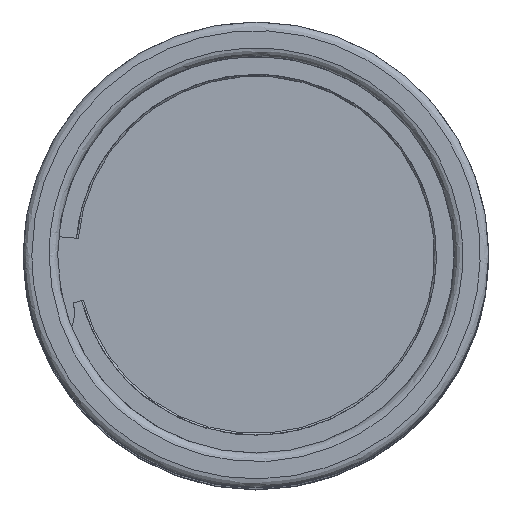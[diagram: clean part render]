
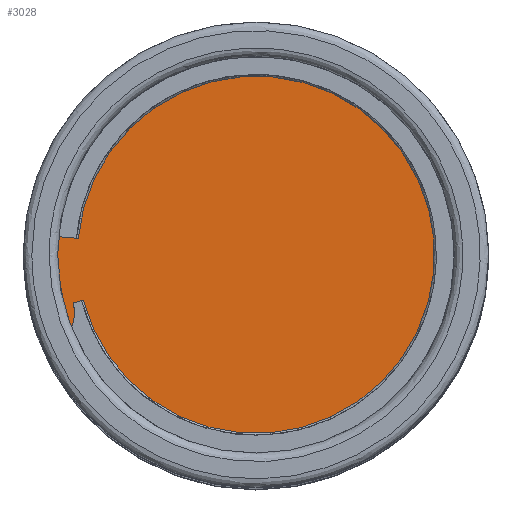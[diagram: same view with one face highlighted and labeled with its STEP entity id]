
A CAD part, top view. The second image highlights one B-rep face of the part: STEP entity #3028.
In plain terms, the highlighted planar face has unit normal (0, 0, 1).
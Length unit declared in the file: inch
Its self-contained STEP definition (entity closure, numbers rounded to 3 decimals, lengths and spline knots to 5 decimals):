
#37 = EDGE_CURVE ( 'NONE', #3490, #3490, #2643, .T. ) ;
#41 = CARTESIAN_POINT ( 'NONE',  ( -0.62511, 0.05754, 2.387 ) ) ;
#69 = CARTESIAN_POINT ( 'NONE',  ( -0.60709, -0.15973, 2.387 ) ) ;
#243 = ORIENTED_EDGE ( 'NONE', *, *, #1819, .F. ) ;
#270 = CARTESIAN_POINT ( 'NONE',  ( 0., 0., 2.387 ) ) ;
#381 = CARTESIAN_POINT ( 'NONE',  ( 0.86458, -1.0048, 2.387 ) ) ;
#508 = CARTESIAN_POINT ( 'NONE',  ( -0.33609, -1.18974, 2.387 ) ) ;
#511 = ORIENTED_EDGE ( 'NONE', *, *, #37, .F. ) ;
#512 = PLANE ( 'NONE',  #2133 ) ;
#704 = ORIENTED_EDGE ( 'NONE', *, *, #3584, .T. ) ;
#826 = EDGE_LOOP ( 'NONE', ( #2262, #704, #243, #1555, #2501 ) ) ;
#975 = CIRCLE ( 'NONE', #2659, 0.13933 ) ;
#1021 = VECTOR ( 'NONE', #3404, 39.37008 ) ;
#1031 = EDGE_CURVE ( 'NONE', #1892, #3234, #2520, .T. ) ;
#1073 = DIRECTION ( 'NONE',  ( 1., 0., 0. ) ) ;
#1113 = EDGE_CURVE ( 'NONE', #2357, #1892, #2550, .T. ) ;
#1116 = FACE_BOUND ( 'NONE', #826, .T. ) ;
#1234 = CARTESIAN_POINT ( 'NONE',  ( -0.5973, 1.18337, 2.387 ) ) ;
#1470 = CARTESIAN_POINT ( 'NONE',  ( -0.70029, 0.06446, 2.387 ) ) ;
#1522 = CARTESIAN_POINT ( 'NONE',  ( 0.52585, 1.2168, 2.387 ) ) ;
#1544 = DIRECTION ( 'NONE',  ( -0.083, 0.997, 0. ) ) ;
#1553 = VERTEX_POINT ( 'NONE', #2542 ) ;
#1555 = ORIENTED_EDGE ( 'NONE', *, *, #1031, .F. ) ;
#1620 = DIRECTION ( 'NONE',  ( 1., 0., 0. ) ) ;
#1775 = CARTESIAN_POINT ( 'NONE',  ( 0.715, 0., 2.387 ) ) ;
#1819 = EDGE_CURVE ( 'NONE', #3234, #1553, #2180, .T. ) ;
#1888 = CARTESIAN_POINT ( 'NONE',  ( -0.52748, 1.11813, 2.387 ) ) ;
#1892 = VERTEX_POINT ( 'NONE', #41 ) ;
#1946 = VECTOR ( 'NONE', #2199, 39.37008 ) ;
#1981 = CARTESIAN_POINT ( 'NONE',  ( -0.70029, 0.06446, 2.387 ) ) ;
#1982 = VERTEX_POINT ( 'NONE', #2849 ) ;
#2133 = AXIS2_PLACEMENT_3D ( 'NONE', #3026, #3321, #1620 ) ;
#2180 = LINE ( 'NONE', #270, #1946 ) ;
#2186 = CARTESIAN_POINT ( 'NONE',  ( -0.62511, 0.05754, 2.387 ) ) ;
#2199 = DIRECTION ( 'NONE',  ( -0.967, -0.254, 0. ) ) ;
#2259 = CARTESIAN_POINT ( 'NONE',  ( -0.70651, 0.06503, 2.387 ) ) ;
#2262 = ORIENTED_EDGE ( 'NONE', *, *, #2715, .F. ) ;
#2327 = CARTESIAN_POINT ( 'NONE',  ( -0.64926, -0.27023, 2.387 ) ) ;
#2357 = VERTEX_POINT ( 'NONE', #1981 ) ;
#2408 = AXIS2_PLACEMENT_3D ( 'NONE', #2455, #3314, #1073 ) ;
#2455 = CARTESIAN_POINT ( 'NONE',  ( 0., 0., 2.387 ) ) ;
#2501 = ORIENTED_EDGE ( 'NONE', *, *, #1113, .F. ) ;
#2520 =( BOUNDED_CURVE ( )  B_SPLINE_CURVE ( 3, ( #2186, #1888, #3298, #3568, #2764, #508, #2725 ),
 .UNSPECIFIED., .F., .T. ) 
 B_SPLINE_CURVE_WITH_KNOTS ( ( 4, 3, 4 ),
 ( 0., 0.5, 1. ),
 .UNSPECIFIED. ) 
 CURVE ( )  GEOMETRIC_REPRESENTATION_ITEM ( )  RATIONAL_B_SPLINE_CURVE ( ( 1., 0.391, 0.391, 1., 0.391, 0.391, 1. ) ) 
 REPRESENTATION_ITEM ( '' )  );
#2542 = CARTESIAN_POINT ( 'NONE',  ( -0.6365, -0.16747, 2.387 ) ) ;
#2550 = LINE ( 'NONE', #2259, #1021 ) ;
#2635 = CARTESIAN_POINT ( 'NONE',  ( -0.21748, -1.3076, 2.387 ) ) ;
#2643 = CIRCLE ( 'NONE', #2408, 0.715 ) ;
#2659 = AXIS2_PLACEMENT_3D ( 'NONE', #2869, #3458, #1544 ) ;
#2715 = EDGE_CURVE ( 'NONE', #1982, #2357, #2887, .T. ) ;
#2725 = CARTESIAN_POINT ( 'NONE',  ( -0.60709, -0.15973, 2.387 ) ) ;
#2764 = CARTESIAN_POINT ( 'NONE',  ( 0.71363, -1.00954, 2.387 ) ) ;
#2849 = CARTESIAN_POINT ( 'NONE',  ( -0.64926, -0.27023, 2.387 ) ) ;
#2869 = CARTESIAN_POINT ( 'NONE',  ( -0.77125, -0.20292, 2.387 ) ) ;
#2887 =( BOUNDED_CURVE ( )  B_SPLINE_CURVE ( 3, ( #2327, #2635, #381, #3456, #1522, #1234, #1470 ),
 .UNSPECIFIED., .F., .T. ) 
 B_SPLINE_CURVE_WITH_KNOTS ( ( 4, 3, 4 ),
 ( 0., 0.5, 1. ),
 .UNSPECIFIED. ) 
 CURVE ( )  GEOMETRIC_REPRESENTATION_ITEM ( )  RATIONAL_B_SPLINE_CURVE ( ( 1., 0.414, 0.414, 1., 0.414, 0.414, 1. ) ) 
 REPRESENTATION_ITEM ( '' )  );
#3008 = FACE_OUTER_BOUND ( 'NONE', #3156, .T. ) ;
#3026 = CARTESIAN_POINT ( 'NONE',  ( 0., 0., 2.387 ) ) ;
#3028 = ADVANCED_FACE ( 'NONE', ( #3008, #1116 ), #512, .T. ) ;
#3156 = EDGE_LOOP ( 'NONE', ( #511 ) ) ;
#3234 = VERTEX_POINT ( 'NONE', #69 ) ;
#3298 = CARTESIAN_POINT ( 'NONE',  ( 0.53758, 1.11331, 2.387 ) ) ;
#3314 = DIRECTION ( 'NONE',  ( 0., 0., -1. ) ) ;
#3321 = DIRECTION ( 'NONE',  ( 0., 0., 1. ) ) ;
#3404 = DIRECTION ( 'NONE',  ( 0.996, -0.092, 0. ) ) ;
#3456 = CARTESIAN_POINT ( 'NONE',  ( 0.69521, 0.106, 2.387 ) ) ;
#3458 = DIRECTION ( 'NONE',  ( 0., 0., 1. ) ) ;
#3490 = VERTEX_POINT ( 'NONE', #1775 ) ;
#3568 = CARTESIAN_POINT ( 'NONE',  ( 0.6256, 0.05188, 2.387 ) ) ;
#3584 = EDGE_CURVE ( 'NONE', #1982, #1553, #975, .T. ) ;
